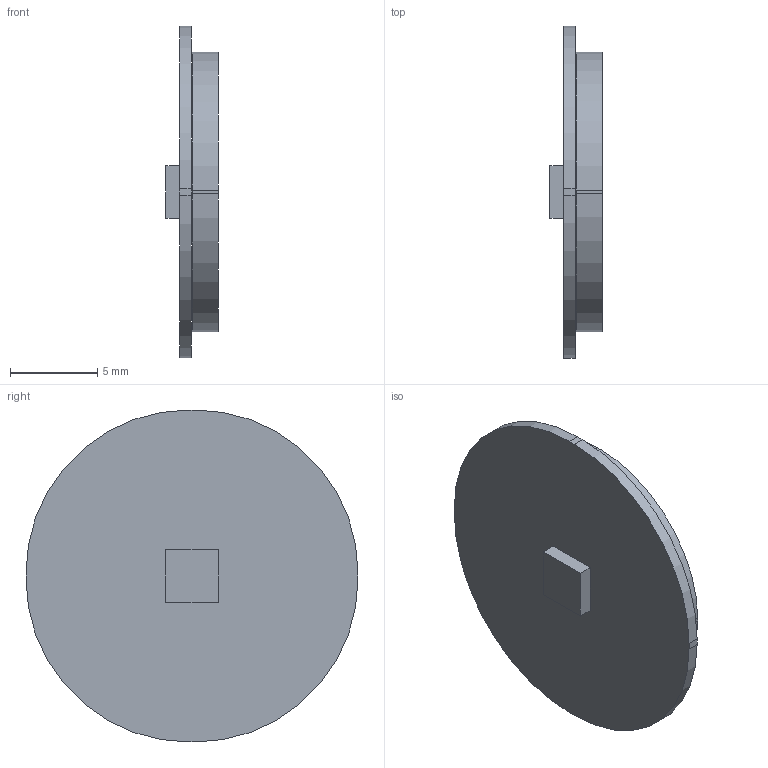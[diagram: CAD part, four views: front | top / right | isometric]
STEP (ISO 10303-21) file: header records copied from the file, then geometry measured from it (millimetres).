
FILE_DESCRIPTION(('Open CASCADE Model'),'2;1');
FILE_NAME('Open CASCADE Shape Model','2026-09-06T11:30:36',('Author'),( 'Open CASCADE'),'Open CASCADE STEP processor 7.7','Open CASCADE 7.7' ,'Unknown');
FILE_SCHEMA(('AUTOMOTIVE_DESIGN { 1 0 10303 214 1 1 1 1 }'));
Length unit declared in the file: millimetre
Products named in the file (1): Open CASCADE STEP translator 7.7 17
Bounding box: 3 x 19 x 19 mm (x, y, z)
Volume: 497.7 mm3; surface area: 1085.2 mm2
Topology: 1 solids, 1 shells, 29 faces, 72 edges, 48 vertices
Faces by surface type: plane 21, cylinder 8
Entity records: 1832 total; most frequent: CARTESIAN_POINT 342, DIRECTION 284, LINE 184, VECTOR 184, ORIENTED_EDGE 144, PCURVE 144, DEFINITIONAL_REPRESENTATION 144, EDGE_CURVE 72
